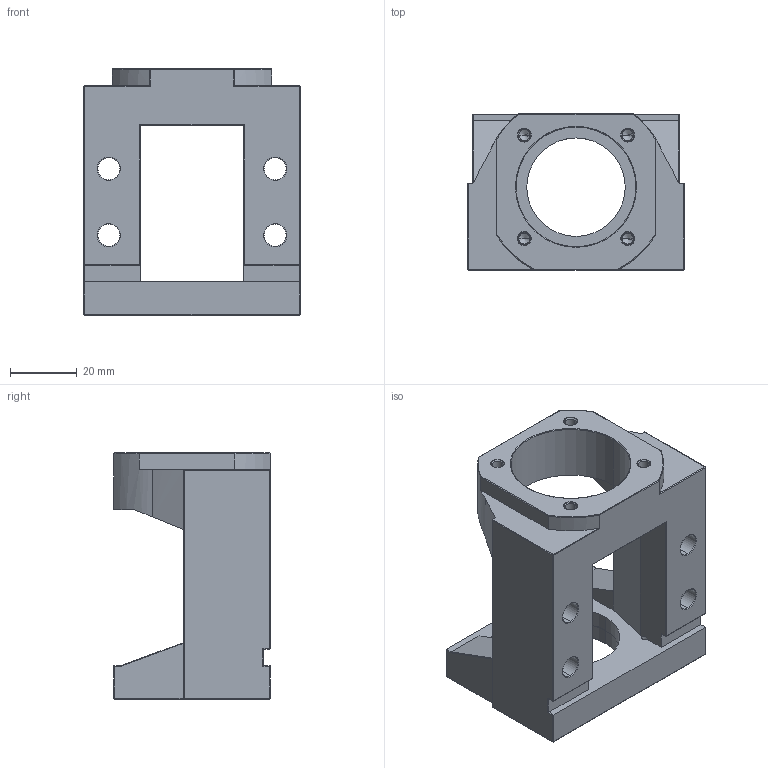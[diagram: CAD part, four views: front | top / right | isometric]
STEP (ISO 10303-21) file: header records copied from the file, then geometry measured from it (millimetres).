
FILE_DESCRIPTION (( 'STEP AP203' ), '1' );
FILE_NAME ('MBA12-A.STEP', '2017-12-28T05:58:07', ( '' ), ( '' ), 'SwSTEP 2.0', 'SolidWorks 2017', '' );
FILE_SCHEMA (( 'CONFIG_CONTROL_DESIGN' ));
Length unit declared in the file: millimetre
Products named in the file (1): MBA12-A
Bounding box: 65 x 47 x 74 mm (x, y, z)
Volume: 85975.8 mm3; surface area: 25430.9 mm2
Topology: 1 solids, 1 shells, 204 faces, 501 edges, 280 vertices
Faces by surface type: cylinder 89, plane 39, torus 34, cone 28, sphere 12, bspline 2
Entity records: 5966 total; most frequent: CARTESIAN_POINT 1142, DIRECTION 1071, ORIENTED_EDGE 954, EDGE_CURVE 477, AXIS2_PLACEMENT_3D 429, VERTEX_POINT 280, EDGE_LOOP 231, CIRCLE 226
